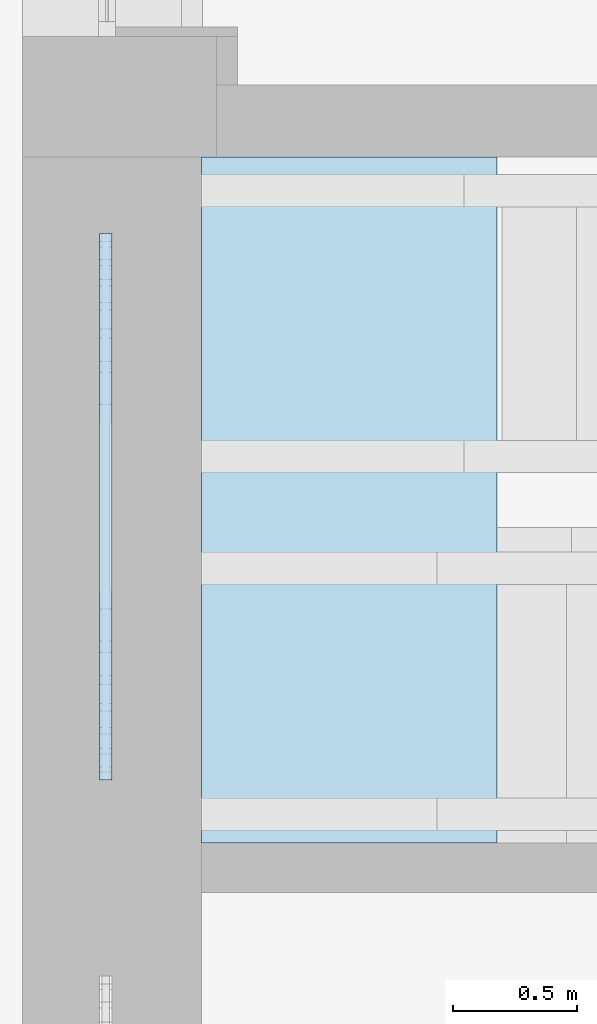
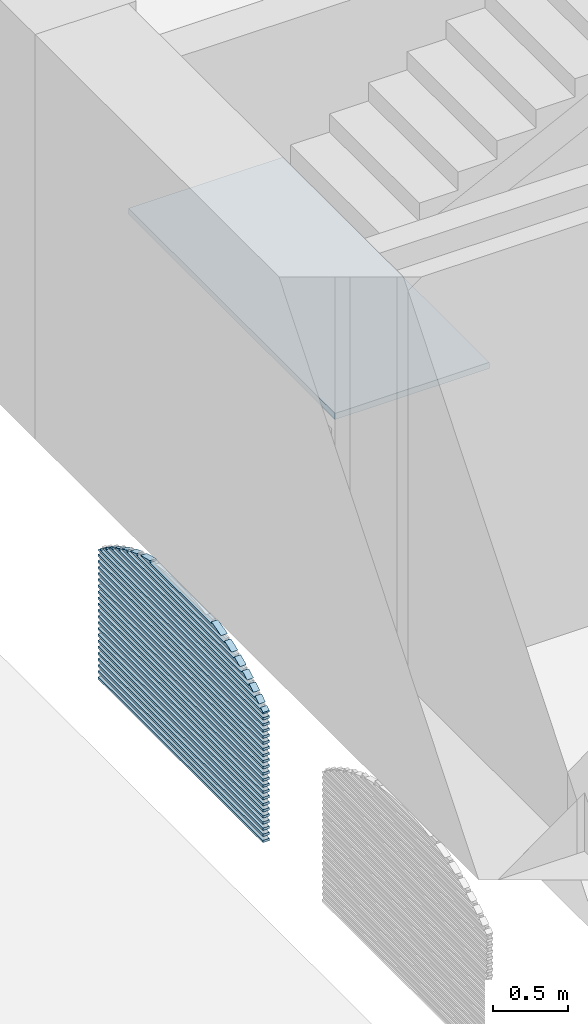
# One storey, part 60 of 88: 28 plates, 1 slab, 2 elements without a shape of their own.
"""IFC2X3 building model written with IfcOpenShell, lengths in millimetres."""

from ifc_helpers import new_model, entity, si_unit, converted_unit, derived_unit, direction, frame, frame_2d, origin, origin_2d_with_axis, place, context, subcontext, project, spatial, polyline, circle_curve, parameter, trimmed, segment, composite_curve, rectangle, outline, extrude, source, transform, mapped, material, type_object, type_shapes, element, aggregate, save


model = new_model("IFC2X3")

# Units and contexts
model_context = context("Model", 3, precision=0.01, world=origin(), true_north=direction((6.123031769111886e-17, 1.0)))
body_context = subcontext(model_context, "Body", "Model", "MODEL_VIEW")
ifc_project = project(units=[si_unit("LENGTHUNIT", "METRE", prefix="MILLI"), si_unit("AREAUNIT", "SQUARE_METRE"), si_unit("VOLUMEUNIT", "CUBIC_METRE"), converted_unit("PLANEANGLEUNIT", "DEGREE", entity("IfcPlaneAngleMeasure", 0.017453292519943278), si_unit("PLANEANGLEUNIT", "RADIAN"), dimensions=[0, 0, 0, 0, 0, 0, 0]), si_unit("MASSUNIT", "GRAM", prefix="KILO"), derived_unit("MASSDENSITYUNIT", [(si_unit("MASSUNIT", "GRAM", prefix="KILO"), 1), (si_unit("LENGTHUNIT", "METRE"), -3)]), derived_unit("IONCONCENTRATIONUNIT", [(si_unit("MASSUNIT", "GRAM", prefix="KILO"), 1), (si_unit("LENGTHUNIT", "METRE"), -3)]), derived_unit("MOMENTOFINERTIAUNIT", [(si_unit("LENGTHUNIT", "METRE"), 4)]), si_unit("TIMEUNIT", "SECOND"), si_unit("FREQUENCYUNIT", "HERTZ"), si_unit("THERMODYNAMICTEMPERATUREUNIT", "DEGREE_CELSIUS"), derived_unit("THERMALTRANSMITTANCEUNIT", [(si_unit("MASSUNIT", "GRAM", prefix="KILO"), 1), (si_unit("THERMODYNAMICTEMPERATUREUNIT", "KELVIN"), -1), (si_unit("TIMEUNIT", "SECOND"), -3)]), derived_unit("THERMALCONDUCTANCEUNIT", [(si_unit("MASSUNIT", "GRAM", prefix="KILO"), 1), (si_unit("THERMODYNAMICTEMPERATUREUNIT", "KELVIN"), -1), (si_unit("TIMEUNIT", "SECOND"), -3), (si_unit("LENGTHUNIT", "METRE"), 1)]), derived_unit("VOLUMETRICFLOWRATEUNIT", [(si_unit("LENGTHUNIT", "METRE", prefix="DECI"), 3), (si_unit("TIMEUNIT", "SECOND"), -1)]), derived_unit("MASSFLOWRATEUNIT", [(si_unit("MASSUNIT", "GRAM", prefix="KILO"), 1), (si_unit("TIMEUNIT", "SECOND"), -1)]), derived_unit("ROTATIONALFREQUENCYUNIT", [(si_unit("TIMEUNIT", "SECOND"), -1)]), si_unit("ELECTRICCURRENTUNIT", "AMPERE"), si_unit("ELECTRICVOLTAGEUNIT", "VOLT"), si_unit("POWERUNIT", "WATT"), si_unit("FORCEUNIT", "NEWTON", prefix="KILO"), si_unit("ILLUMINANCEUNIT", "LUX"), si_unit("LUMINOUSFLUXUNIT", "LUMEN"), si_unit("LUMINOUSINTENSITYUNIT", "CANDELA"), si_unit("ENERGYUNIT", "JOULE"), derived_unit("USERDEFINED", [(si_unit("MASSUNIT", "GRAM", prefix="KILO"), -1), (si_unit("LENGTHUNIT", "METRE"), -2), (si_unit("TIMEUNIT", "SECOND"), 3), (si_unit("LUMINOUSFLUXUNIT", "LUMEN"), 1)]), derived_unit("USERDEFINED", [(si_unit("MASSUNIT", "GRAM", prefix="KILO"), 1), (si_unit("TIMEUNIT", "SECOND"), -3), (si_unit("LENGTHUNIT", "METRE"), 3), (si_unit("ELECTRICCURRENTUNIT", "AMPERE"), -2)]), derived_unit("SOUNDPOWERUNIT", [(si_unit("MASSUNIT", "GRAM", prefix="KILO"), 1), (si_unit("TIMEUNIT", "SECOND"), -3), (si_unit("LENGTHUNIT", "METRE"), 2)]), derived_unit("SOUNDPRESSUREUNIT", [(si_unit("MASSUNIT", "GRAM", prefix="KILO"), 1), (si_unit("LENGTHUNIT", "METRE"), -1), (si_unit("TIMEUNIT", "SECOND"), -2)]), derived_unit("LINEARVELOCITYUNIT", [(si_unit("LENGTHUNIT", "METRE"), 1), (si_unit("TIMEUNIT", "SECOND"), -1)]), si_unit("PRESSUREUNIT", "PASCAL"), derived_unit("USERDEFINED", [(si_unit("MASSUNIT", "GRAM", prefix="KILO"), 1), (si_unit("LENGTHUNIT", "METRE"), -2), (si_unit("TIMEUNIT", "SECOND"), -2)]), derived_unit("LINEARFORCEUNIT", [(si_unit("MASSUNIT", "GRAM", prefix="KILO"), 1), (si_unit("TIMEUNIT", "SECOND"), -2)]), derived_unit("PLANARFORCEUNIT", [(si_unit("MASSUNIT", "GRAM", prefix="KILO"), 1), (si_unit("LENGTHUNIT", "METRE"), -1), (si_unit("TIMEUNIT", "SECOND"), -2)]), derived_unit("SPECIFICHEATCAPACITYUNIT", [(si_unit("THERMODYNAMICTEMPERATUREUNIT", "KELVIN"), -1), (si_unit("LENGTHUNIT", "METRE"), 2), (si_unit("TIMEUNIT", "SECOND"), -2)]), derived_unit("HEATFLUXDENSITYUNIT", [(si_unit("MASSUNIT", "GRAM", prefix="KILO"), 1), (si_unit("TIMEUNIT", "SECOND"), -3)]), derived_unit("HEATINGVALUEUNIT", [(si_unit("LENGTHUNIT", "METRE"), 2), (si_unit("TIMEUNIT", "SECOND"), -2)]), derived_unit("VAPORPERMEABILITYUNIT", [(si_unit("LENGTHUNIT", "METRE"), -1), (si_unit("TIMEUNIT", "SECOND"), 1)]), derived_unit("DYNAMICVISCOSITYUNIT", [(si_unit("MASSUNIT", "GRAM", prefix="KILO"), 1), (si_unit("TIMEUNIT", "SECOND"), -1), (si_unit("LENGTHUNIT", "METRE"), -1)]), derived_unit("THERMALEXPANSIONCOEFFICIENTUNIT", [(si_unit("THERMODYNAMICTEMPERATUREUNIT", "KELVIN"), -1)]), derived_unit("MODULUSOFELASTICITYUNIT", [(si_unit("MASSUNIT", "GRAM", prefix="KILO"), 1), (si_unit("LENGTHUNIT", "METRE"), -1), (si_unit("TIMEUNIT", "SECOND"), -2)]), derived_unit("ISOTHERMALMOISTURECAPACITYUNIT", [(si_unit("MASSUNIT", "GRAM", prefix="KILO"), -1), (si_unit("LENGTHUNIT", "METRE"), 3)]), derived_unit("MOISTUREDIFFUSIVITYUNIT", [(si_unit("TIMEUNIT", "SECOND"), -1), (si_unit("LENGTHUNIT", "METRE"), 2)]), derived_unit("MASSPERLENGTHUNIT", [(si_unit("MASSUNIT", "GRAM", prefix="KILO"), 1), (si_unit("LENGTHUNIT", "METRE"), -1)]), derived_unit("THERMALRESISTANCEUNIT", [(si_unit("MASSUNIT", "GRAM", prefix="KILO"), -1), (si_unit("TIMEUNIT", "SECOND"), 3), (si_unit("THERMODYNAMICTEMPERATUREUNIT", "KELVIN"), 1)]), derived_unit("ACCELERATIONUNIT", [(si_unit("LENGTHUNIT", "METRE"), 1), (si_unit("TIMEUNIT", "SECOND"), -2)]), derived_unit("ANGULARVELOCITYUNIT", [(si_unit("TIMEUNIT", "SECOND"), -1), (si_unit("PLANEANGLEUNIT", "RADIAN"), 1)]), derived_unit("LINEARSTIFFNESSUNIT", [(si_unit("MASSUNIT", "GRAM", prefix="KILO"), 1), (si_unit("TIMEUNIT", "SECOND"), -2)]), derived_unit("WARPINGCONSTANTUNIT", [(si_unit("LENGTHUNIT", "METRE"), 6)]), derived_unit("LINEARMOMENTUNIT", [(si_unit("MASSUNIT", "GRAM", prefix="KILO"), 1), (si_unit("LENGTHUNIT", "METRE"), 1), (si_unit("TIMEUNIT", "SECOND"), -2)]), derived_unit("TORQUEUNIT", [(si_unit("MASSUNIT", "GRAM", prefix="KILO"), 1), (si_unit("LENGTHUNIT", "METRE"), 2), (si_unit("TIMEUNIT", "SECOND"), -2)])], contexts=[model_context])

# Site, building, storey
site_placement = place(None, origin())
site = spatial("IfcSite", under=ifc_project, at=site_placement, Name="Default", CompositionType="ELEMENT")
building_placement = place(site_placement, origin())
building = spatial("IfcBuilding", under=site, at=building_placement, Name="Eesti Rahvusraamatukogu hoone renoveerimise projekteerimistööd", CompositionType="ELEMENT")
storey_placement = place(building_placement, origin())
storey = spatial("IfcBuildingStorey", under=building, at=storey_placement, Name="1. korrus", CompositionType="ELEMENT", Elevation=0.0)

# Stair, slab
stair_placement = place(storey_placement, origin())
stair = element("IfcStair", 1, at=stair_placement, inside=storey, Name="Assembled Stair:Stair", ObjectType="Assembled Stair:ol. olev trepp 50", ShapeType="STRAIGHT_RUN_STAIR")
ifc_material_1 = material(Name="ol. olev materjal")
slab_type = type_object("IfcSlabType", Name="Non-Monolithic Landing:Non-Monolithic Landing", PredefinedType="LANDING")
slab_placement = place(stair_placement, frame((-36060.0, 27545.0, 0.0)))
slab = element("IfcSlab", 2, at=slab_placement, type_object=slab_type, material=ifc_material_1, Name="Assembled Stair:Stair:4087566 Landing 1", ObjectType="Non-Monolithic Landing:Non-Monolithic Landing", PredefinedType="LANDING", context=body_context, shape_type="SweptSolid", body=[
    extrude(rectangle(XDim=2760.000000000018, YDim=1189.9999999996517, at=frame_2d((22.000000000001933, 118.99999999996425), x_axis=(1.0, 0.0))), frame((714.0, 1358.0, 3231.666666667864), z_axis=(0.0, 0.0, 1.0), x_axis=(0.0, 1.0, 0.0)), (0.0, 0.0, 1.0), 50.0),
])
aggregate(stair, [slab])

# Curtain wall, plates
curtain_wall_type = type_object("IfcCurtainWallType", Name="Curtain Wall:ol. olev MK vent. rest", PredefinedType="NOTDEFINED")
curtain_wall_placement = place(storey_placement, origin())
curtain_wall = element("IfcCurtainWall", 3, at=curtain_wall_placement, inside=storey, type_object=curtain_wall_type, Name="Curtain Wall:ol. olev MK vent. rest", ObjectType="Curtain Wall:ol. olev MK vent. rest")
ifc_material_2 = material(Name="LUMION_dark steel window frames")
plate_type_1 = type_object("IfcPlateType", Name="System Panel:Solid", PredefinedType="CURTAIN_PANEL", material=ifc_material_2)
shared_shape_1 = source(origin(), body_context, "Body", "SweptSolid", [
    extrude(rectangle(XDim=50.0, YDim=2200.0000000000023, at=origin_2d_with_axis()), frame((0.0, 0.0, 0.0), z_axis=(0.0, 0.0, 1.0), x_axis=(0.0, 1.0, 0.0)), (0.0, 0.0, 1.0), 19.999999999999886),
])
type_shapes(plate_type_1, [shared_shape_1])
plate_1_placement = place(curtain_wall_placement, frame((-36445.0, 28898.6343410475, -230.0), z_axis=(0.0, 0.0, 1.0), x_axis=(0.0, -1.0, 0.0)))
plate_1 = element("IfcPlate", 4, at=plate_1_placement, type_object=plate_type_1, material=ifc_material_2, Name="System Panel:Solid", ObjectType="System Panel:Solid", context=body_context, shape_type="MappedRepresentation", body=[
    mapped(shared_shape_1, transform((0.0, 0.0, 0.0), scale=1.0)),
])
plate_2_placement = place(curtain_wall_placement, frame((-36445.0, 28898.6343410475, -180.0), z_axis=(0.0, 0.0, 1.0), x_axis=(0.0, -1.0, 0.0)))
plate_2 = element("IfcPlate", 5, at=plate_2_placement, type_object=plate_type_1, material=ifc_material_2, Name="System Panel:Solid", ObjectType="System Panel:Solid", context=body_context, shape_type="MappedRepresentation", body=[
    mapped(shared_shape_1, transform((0.0, 0.0, 0.0), scale=1.0)),
])
plate_3_placement = place(curtain_wall_placement, frame((-36445.0, 28898.6343410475, -130.0), z_axis=(0.0, 0.0, 1.0), x_axis=(0.0, -1.0, 0.0)))
plate_3 = element("IfcPlate", 6, at=plate_3_placement, type_object=plate_type_1, material=ifc_material_2, Name="System Panel:Solid", ObjectType="System Panel:Solid", context=body_context, shape_type="MappedRepresentation", body=[
    mapped(shared_shape_1, transform((0.0, 0.0, 0.0), scale=1.0)),
])
plate_4_placement = place(curtain_wall_placement, frame((-36445.0, 28898.6343410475, -80.0), z_axis=(0.0, 0.0, 1.0), x_axis=(0.0, -1.0, 0.0)))
plate_4 = element("IfcPlate", 7, at=plate_4_placement, type_object=plate_type_1, material=ifc_material_2, Name="System Panel:Solid", ObjectType="System Panel:Solid", context=body_context, shape_type="MappedRepresentation", body=[
    mapped(shared_shape_1, transform((0.0, 0.0, 0.0), scale=1.0)),
])
plate_5_placement = place(curtain_wall_placement, frame((-36445.0, 28898.6343410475, -30.0), z_axis=(0.0, 0.0, 1.0), x_axis=(0.0, -1.0, 0.0)))
plate_5 = element("IfcPlate", 8, at=plate_5_placement, type_object=plate_type_1, material=ifc_material_2, Name="System Panel:Solid", ObjectType="System Panel:Solid", context=body_context, shape_type="MappedRepresentation", body=[
    mapped(shared_shape_1, transform((0.0, 0.0, 0.0), scale=1.0)),
])
plate_6_placement = place(curtain_wall_placement, frame((-36445.0, 28898.6343410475, 20.0), z_axis=(0.0, 0.0, 1.0), x_axis=(0.0, -1.0, 0.0)))
plate_6 = element("IfcPlate", 9, at=plate_6_placement, type_object=plate_type_1, material=ifc_material_2, Name="System Panel:Solid", ObjectType="System Panel:Solid", context=body_context, shape_type="MappedRepresentation", body=[
    mapped(shared_shape_1, transform((0.0, 0.0, 0.0), scale=1.0)),
])
plate_7_placement = place(curtain_wall_placement, frame((-36445.0, 28898.6343410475, 70.0), z_axis=(0.0, 0.0, 1.0), x_axis=(0.0, -1.0, 0.0)))
plate_7 = element("IfcPlate", 10, at=plate_7_placement, type_object=plate_type_1, material=ifc_material_2, Name="System Panel:Solid", ObjectType="System Panel:Solid", context=body_context, shape_type="MappedRepresentation", body=[
    mapped(shared_shape_1, transform((0.0, 0.0, 0.0), scale=1.0)),
])
plate_8_placement = place(curtain_wall_placement, frame((-36445.0, 28898.6343410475, 120.0), z_axis=(0.0, 0.0, 1.0), x_axis=(0.0, -1.0, 0.0)))
plate_8 = element("IfcPlate", 11, at=plate_8_placement, type_object=plate_type_1, material=ifc_material_2, Name="System Panel:Solid", ObjectType="System Panel:Solid", context=body_context, shape_type="MappedRepresentation", body=[
    mapped(shared_shape_1, transform((0.0, 0.0, 0.0), scale=1.0)),
])
plate_9_placement = place(curtain_wall_placement, frame((-36445.0, 28898.6343410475, 170.0), z_axis=(0.0, 0.0, 1.0), x_axis=(0.0, -1.0, 0.0)))
plate_9 = element("IfcPlate", 12, at=plate_9_placement, type_object=plate_type_1, material=ifc_material_2, Name="System Panel:Solid", ObjectType="System Panel:Solid", context=body_context, shape_type="MappedRepresentation", body=[
    mapped(shared_shape_1, transform((0.0, 0.0, 0.0), scale=1.0)),
])
plate_10_placement = place(curtain_wall_placement, frame((-36445.0, 28898.6343410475, 220.0), z_axis=(0.0, 0.0, 1.0), x_axis=(0.0, -1.0, 0.0)))
plate_10 = element("IfcPlate", 13, at=plate_10_placement, type_object=plate_type_1, material=ifc_material_2, Name="System Panel:Solid", ObjectType="System Panel:Solid", context=body_context, shape_type="MappedRepresentation", body=[
    mapped(shared_shape_1, transform((0.0, 0.0, 0.0), scale=1.0)),
])
plate_11_placement = place(curtain_wall_placement, frame((-36445.0, 28898.6343410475, 270.0), z_axis=(0.0, 0.0, 1.0), x_axis=(0.0, -1.0, 0.0)))
plate_11 = element("IfcPlate", 14, at=plate_11_placement, type_object=plate_type_1, material=ifc_material_2, Name="System Panel:Solid", ObjectType="System Panel:Solid", context=body_context, shape_type="MappedRepresentation", body=[
    mapped(shared_shape_1, transform((0.0, 0.0, 0.0), scale=1.0)),
])
plate_12_placement = place(curtain_wall_placement, frame((-36445.0, 28898.6343410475, 320.0), z_axis=(0.0, 0.0, 1.0), x_axis=(0.0, -1.0, 0.0)))
plate_12 = element("IfcPlate", 15, at=plate_12_placement, type_object=plate_type_1, material=ifc_material_2, Name="System Panel:Solid", ObjectType="System Panel:Solid", context=body_context, shape_type="MappedRepresentation", body=[
    mapped(shared_shape_1, transform((0.0, 0.0, 0.0), scale=1.0)),
])
plate_13_placement = place(curtain_wall_placement, frame((-36445.0, 28898.6343410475, 370.0), z_axis=(0.0, 0.0, 1.0), x_axis=(0.0, -1.0, 0.0)))
plate_13 = element("IfcPlate", 16, at=plate_13_placement, type_object=plate_type_1, material=ifc_material_2, Name="System Panel:Solid", ObjectType="System Panel:Solid", context=body_context, shape_type="MappedRepresentation", body=[
    mapped(shared_shape_1, transform((0.0, 0.0, 0.0), scale=1.0)),
])
plate_14_placement = place(curtain_wall_placement, frame((-36445.0, 28898.6343410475, 420.0), z_axis=(0.0, 0.0, 1.0), x_axis=(0.0, -1.0, 0.0)))
plate_14 = element("IfcPlate", 17, at=plate_14_placement, type_object=plate_type_1, material=ifc_material_2, Name="System Panel:Solid", ObjectType="System Panel:Solid", context=body_context, shape_type="MappedRepresentation", body=[
    mapped(shared_shape_1, transform((0.0, 0.0, 0.0), scale=1.0)),
])
plate_15_placement = place(curtain_wall_placement, frame((-36445.0, 28898.6343410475, 470.0), z_axis=(0.0, 0.0, 1.0), x_axis=(0.0, -1.0, 0.0)))
plate_15 = element("IfcPlate", 18, at=plate_15_placement, type_object=plate_type_1, material=ifc_material_2, Name="System Panel:Solid", ObjectType="System Panel:Solid", context=body_context, shape_type="MappedRepresentation", body=[
    mapped(shared_shape_1, transform((0.0, 0.0, 0.0), scale=1.0)),
])
plate_16_placement = place(curtain_wall_placement, frame((-36445.0, 28898.6343410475, 520.0), z_axis=(0.0, 0.0, 1.0), x_axis=(0.0, -1.0, 0.0)))
plate_16 = element("IfcPlate", 19, at=plate_16_placement, type_object=plate_type_1, material=ifc_material_2, Name="System Panel:Solid", ObjectType="System Panel:Solid", context=body_context, shape_type="MappedRepresentation", body=[
    mapped(shared_shape_1, transform((0.0, 0.0, 0.0), scale=1.0)),
])
plate_17_placement = place(curtain_wall_placement, frame((-36445.0, 28898.6343410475, 570.0), z_axis=(0.0, 0.0, 1.0), x_axis=(0.0, -1.0, 0.0)))
plate_17 = element("IfcPlate", 20, at=plate_17_placement, type_object=plate_type_1, material=ifc_material_2, Name="System Panel:Solid", ObjectType="System Panel:Solid", context=body_context, shape_type="MappedRepresentation", body=[
    mapped(shared_shape_1, transform((0.0, 0.0, 0.0), scale=1.0)),
])
plate_18_placement = place(curtain_wall_placement, frame((-36445.0, 28898.63434104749, 620.0), z_axis=(0.0, 0.0, 1.0), x_axis=(0.0, -1.0, 0.0)))
plate_18 = element("IfcPlate", 21, at=plate_18_placement, type_object=plate_type_1, material=ifc_material_2, Name="System Panel:Solid", ObjectType="System Panel:Solid", context=body_context, shape_type="MappedRepresentation", body=[
    mapped(shared_shape_1, transform((0.0, 0.0, 0.0), scale=1.0)),
])
plate_19_placement = place(curtain_wall_placement, frame((-36445.0, 28898.63434104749, 670.0), z_axis=(0.0, 0.0, 1.0), x_axis=(0.0, -1.0, 0.0)))
plate_19 = element("IfcPlate", 22, at=plate_19_placement, type_object=plate_type_1, material=ifc_material_2, Name="System Panel:Solid", ObjectType="System Panel:Solid", context=body_context, shape_type="MappedRepresentation", body=[
    mapped(shared_shape_1, transform((0.0, 0.0, 0.0), scale=1.0)),
])
plate_20_placement = place(curtain_wall_placement, frame((-36445.0, 28898.63434104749, 720.0), z_axis=(0.0, 0.0, 1.0), x_axis=(0.0, -1.0, 0.0)))
plate_20 = element("IfcPlate", 23, at=plate_20_placement, type_object=plate_type_1, material=ifc_material_2, Name="System Panel:Solid", ObjectType="System Panel:Solid", context=body_context, shape_type="MappedRepresentation", body=[
    mapped(shared_shape_1, transform((0.0, 0.0, 0.0), scale=1.0)),
])
plate_21_placement = place(curtain_wall_placement, frame((-36445.0, 28898.63434104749, 770.0), z_axis=(0.0, 0.0, 1.0), x_axis=(0.0, -1.0, 0.0)))
plate_21 = element("IfcPlate", 24, at=plate_21_placement, type_object=plate_type_1, material=ifc_material_2, Name="System Panel:Solid", ObjectType="System Panel:Solid", context=body_context, shape_type="MappedRepresentation", body=[
    mapped(shared_shape_1, transform((0.0, 0.0, 0.0), scale=1.0)),
])
plate_type_2 = type_object("IfcPlateType", Name="System Panel:Solid", PredefinedType="CURTAIN_PANEL", material=ifc_material_2)
shared_shape_2 = source(origin(), body_context, "Body", "SweptSolid", [
    extrude(outline(composite_curve([segment(polyline([(-16.44483337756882, -1100.5114047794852), (-6.444833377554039, -1100.5114047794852)]), True, "CONTINUOUS"), segment(trimmed(circle_curve(frame_2d((-1449.322804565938, 0.5114047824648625), x_axis=(0.8087576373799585, -0.5881420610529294)), 1814.9788061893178), [parameter(358.6789588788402)], [parameter(0.0)], True, "PARAMETER"), True, "CONTINUOUS"), segment(polyline([(18.555166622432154, -1066.9539710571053), (3.555166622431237, -1066.9539710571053)]), True, "CONTINUOUS"), segment(polyline([(3.555166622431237, -1066.9539710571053), (3.555166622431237, 1067.9767806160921)]), True, "CONTINUOUS"), segment(polyline([(3.555166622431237, 1067.9767806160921), (18.55516662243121, 1067.9767806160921)]), True, "CONTINUOUS"), segment(trimmed(circle_curve(frame_2d((-1449.3228045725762, 0.5114047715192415), x_axis=(0.7958421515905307, 0.6055041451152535)), 1814.9788061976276), [parameter(358.7601452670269)], [parameter(0.0)], True, "PARAMETER"), True, "CONTINUOUS"), segment(polyline([(-4.886166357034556, 1099.4885952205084), (-16.44483337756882, 1099.4885952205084)]), True, "CONTINUOUS"), segment(polyline([(-16.44483337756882, 1099.4885952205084), (-16.44483337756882, -1100.5114047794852)]), True, "CONTINUOUS")], self_intersect=False)), frame((0.5114047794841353, -25.0, 16.44483337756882), z_axis=(0.0, 1.0, 0.0), x_axis=(0.0, 0.0, 1.0)), (0.0, 0.0, 1.0), 50.0),
])
type_shapes(plate_type_2, [shared_shape_2])
plate_22_placement = place(curtain_wall_placement, frame((-36445.0, 28898.634341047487, 820.0), z_axis=(0.0, 0.0, 1.0), x_axis=(0.0, -1.0, 0.0)))
plate_22 = element("IfcPlate", 25, at=plate_22_placement, type_object=plate_type_2, material=ifc_material_2, Name="System Panel:Solid", ObjectType="System Panel:Solid", context=body_context, shape_type="MappedRepresentation", body=[
    mapped(shared_shape_2, transform((0.0, 0.0, 0.0), scale=1.0)),
])
plate_type_3 = type_object("IfcPlateType", Name="System Panel:Solid", PredefinedType="CURTAIN_PANEL", material=ifc_material_2)
shared_shape_3 = source(origin(), body_context, "Body", "SweptSolid", [
    extrude(outline(composite_curve([segment(trimmed(circle_curve(frame_2d((-1255.4722740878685, -823.058169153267), x_axis=(1.0, 0.0)), 1814.9788061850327), [parameter(358.0357142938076)], [parameter(0.0)], True, "PARAMETER"), True, "CONTINUOUS"), segment(polyline([(559.5065320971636, -823.0581691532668), (546.9619395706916, -831.282109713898)]), True, "CONTINUOUS"), segment(polyline([(546.9619395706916, -831.282109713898), (-544.174252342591, 833.1096520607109)]), True, "CONTINUOUS"), segment(polyline([(-544.174252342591, 833.1096520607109), (-531.6296598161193, 841.3335926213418)]), True, "CONTINUOUS"), segment(trimmed(circle_curve(frame_2d((-1255.4722740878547, -823.0581691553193), x_axis=(0.35391264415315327, 0.9352784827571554)), 1814.9788061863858), [parameter(357.2226348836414)], [parameter(359.1869205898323)], True, "PARAMETER"), True, "CONTINUOUS"), segment(polyline([(-589.1045861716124, 865.1663927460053), (558.4400266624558, -885.2693585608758)]), True, "CONTINUOUS")], self_intersect=False)), frame((0.0, -25.0, 18.333333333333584), z_axis=(0.0, 1.0, 0.0), x_axis=(-0.5482627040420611, 0.0, 0.8363061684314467)), (0.0, 0.0, 1.0), 50.0),
])
type_shapes(plate_type_3, [shared_shape_3])
plate_23_placement = place(curtain_wall_placement, frame((-36445.0, 28897.61153148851, 870.0), z_axis=(0.0, 0.0, 1.0), x_axis=(0.0, -1.0, 0.0)))
plate_23 = element("IfcPlate", 26, at=plate_23_placement, type_object=plate_type_3, material=ifc_material_2, Name="System Panel:Solid", ObjectType="System Panel:Solid", context=body_context, shape_type="MappedRepresentation", body=[
    mapped(shared_shape_3, transform((0.0, 0.0, 0.0), scale=1.0)),
])
plate_type_4 = type_object("IfcPlateType", Name="System Panel:Solid", PredefinedType="CURTAIN_PANEL", material=ifc_material_2)
shared_shape_4 = source(origin(), body_context, "Body", "SweptSolid", [
    extrude(outline(composite_curve([segment(trimmed(circle_curve(frame_2d((-1340.021175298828, -781.4088309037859), x_axis=(1.0, 0.0)), 1814.978806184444), [parameter(357.87378894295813)], [parameter(0.0)], True, "PARAMETER"), True, "CONTINUOUS"), segment(polyline([(474.95763088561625, -781.4088309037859), (461.99981039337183, -788.9649468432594)]), True, "CONTINUOUS"), segment(polyline([(461.99981039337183, -788.9649468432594), (-459.1202947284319, 790.6440837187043)]), True, "CONTINUOUS"), segment(polyline([(-459.1202947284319, 790.6440837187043), (-446.16247423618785, 798.2001996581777)]), True, "CONTINUOUS"), segment(trimmed(circle_curve(frame_2d((-1340.021175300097, -781.4088309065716), x_axis=(0.4462645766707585, 0.8949010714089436)), 1814.9788061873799), [parameter(356.99990824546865)], [parameter(359.12611930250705)], True, "PARAMETER"), True, "CONTINUOUS"), segment(polyline([(-505.38273719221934, 830.2756123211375), (473.70806487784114, -848.746117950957)]), True, "CONTINUOUS")], self_intersect=False)), frame((0.0, -25.0, 18.33333333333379), z_axis=(0.0, 1.0, 0.0), x_axis=(-0.5037410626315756, 0.0, 0.8638546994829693)), (0.0, 0.0, 1.0), 49.999999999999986),
])
type_shapes(plate_type_4, [shared_shape_4])
plate_24_placement = place(curtain_wall_placement, frame((-36445.0, 28897.61153148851, 920.0), z_axis=(0.0, 0.0, 1.0), x_axis=(0.0, -1.0, 0.0)))
plate_24 = element("IfcPlate", 27, at=plate_24_placement, type_object=plate_type_4, material=ifc_material_2, Name="System Panel:Solid", ObjectType="System Panel:Solid", context=body_context, shape_type="MappedRepresentation", body=[
    mapped(shared_shape_4, transform((0.0, 0.0, 0.0), scale=1.0)),
])
plate_type_5 = type_object("IfcPlateType", Name="System Panel:Solid", PredefinedType="CURTAIN_PANEL", material=ifc_material_2)
shared_shape_5 = source(origin(), body_context, "Body", "SweptSolid", [
    extrude(outline(composite_curve([segment(trimmed(circle_curve(frame_2d((-1427.3249296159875, -725.6867003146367), x_axis=(1.0, 0.0)), 1814.9788061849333), [parameter(357.65574356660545)], [parameter(0.0)], True, "PARAMETER"), True, "CONTINUOUS"), segment(polyline([(387.65387656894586, -725.6867003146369), (374.28282811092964, -732.4848664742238)]), True, "CONTINUOUS"), segment(polyline([(374.28282811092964, -732.4848664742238), (-371.31148400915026, 733.9955700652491)]), True, "CONTINUOUS"), segment(polyline([(-371.31148400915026, 733.9955700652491), (-357.9404355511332, 740.7937362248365)]), True, "CONTINUOUS"), segment(trimmed(circle_curve(frame_2d((-1427.3249296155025, -725.6867003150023), x_axis=(0.541741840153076, 0.8405449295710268)), 1814.9788061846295), [parameter(356.70207384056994)], [parameter(359.04633027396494)], True, "PARAMETER"), True, "CONTINUOUS"), segment(polyline([(-418.8197030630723, 783.3080892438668), (386.13491794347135, -799.9258287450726)]), True, "CONTINUOUS")], self_intersect=False)), frame((0.0, -25.0, 18.33333333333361), z_axis=(0.0, 1.0, 0.0), x_axis=(-0.45321107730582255, 0.0, 0.8914032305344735)), (0.0, 0.0, 1.0), 50.0),
])
type_shapes(plate_type_5, [shared_shape_5])
plate_25_placement = place(curtain_wall_placement, frame((-36445.0, 28897.61153148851, 970.0), z_axis=(0.0, 0.0, 1.0), x_axis=(0.0, -1.0, 0.0)))
plate_25 = element("IfcPlate", 28, at=plate_25_placement, type_object=plate_type_5, material=ifc_material_2, Name="System Panel:Solid", ObjectType="System Panel:Solid", context=body_context, shape_type="MappedRepresentation", body=[
    mapped(shared_shape_5, transform((0.0, 0.0, 0.0), scale=1.0)),
])
plate_type_6 = type_object("IfcPlateType", Name="System Panel:Solid", PredefinedType="CURTAIN_PANEL", material=ifc_material_2)
shared_shape_6 = source(origin(), body_context, "Body", "SweptSolid", [
    extrude(outline(composite_curve([segment(trimmed(circle_curve(frame_2d((-1517.3835370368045, -651.1881246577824), x_axis=(1.0, 0.0)), 1814.9788061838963), [parameter(357.34111943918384)], [parameter(0.0)], True, "PARAMETER"), True, "CONTINUOUS"), segment(polyline([(297.5952691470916, -651.1881246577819), (283.81099272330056, -657.1036739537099)]), True, "CONTINUOUS"), segment(polyline([(283.81099272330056, -657.1036739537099), (-280.74782018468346, 658.4182404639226)]), True, "CONTINUOUS"), segment(polyline([(-280.74782018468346, 658.4182404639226), (-266.96354376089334, 664.3337897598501)]), True, "CONTINUOUS"), segment(trimmed(circle_curve(frame_2d((-1517.3835370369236, -651.1881246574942), x_axis=(0.6404237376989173, 0.7680217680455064)), 1814.978806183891), [parameter(356.2767946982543)], [parameter(358.9356752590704)], True, "PARAMETER"), True, "CONTINUOUS"), segment(polyline([(-329.33620551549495, 720.9239716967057), (295.64130759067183, -735.3842033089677)]), True, "CONTINUOUS")], self_intersect=False)), frame((0.0, -25.0, 18.3333333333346), z_axis=(0.0, 1.0, 0.0), x_axis=(-0.39436995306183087, 0.0, 0.9189517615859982)), (0.0, 0.0, 1.0), 50.0),
])
type_shapes(plate_type_6, [shared_shape_6])
plate_26_placement = place(curtain_wall_placement, frame((-36445.0, 28897.61153148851, 1020.0), z_axis=(0.0, 0.0, 1.0), x_axis=(0.0, -1.0, 0.0)))
plate_26 = element("IfcPlate", 29, at=plate_26_placement, type_object=plate_type_6, material=ifc_material_2, Name="System Panel:Solid", ObjectType="System Panel:Solid", context=body_context, shape_type="MappedRepresentation", body=[
    mapped(shared_shape_6, transform((0.0, 0.0, 0.0), scale=1.0)),
])
plate_type_7 = type_object("IfcPlateType", Name="System Panel:Solid", PredefinedType="CURTAIN_PANEL", material=ifc_material_2)
shared_shape_7 = source(origin(), body_context, "Body", "SweptSolid", [
    extrude(outline(composite_curve([segment(trimmed(circle_curve(frame_2d((-1610.1969975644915, -548.9859120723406), x_axis=(1.0, 0.0)), 1814.9788061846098), [parameter(356.83143327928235)], [parameter(0.0)], True, "PARAMETER"), True, "CONTINUOUS"), segment(polyline([(204.78180862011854, -548.9859120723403), (190.58430423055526, -553.8264563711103)]), True, "CONTINUOUS"), segment(polyline([(190.58430423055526, -553.8264563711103), (-187.4293032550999, 554.9021328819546)]), True, "CONTINUOUS"), segment(polyline([(-187.4293032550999, 554.9021328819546), (-173.2317988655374, 559.7426771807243)]), True, "CONTINUOUS"), segment(trimmed(circle_curve(frame_2d((-1610.1969975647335, -548.985912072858), x_axis=(0.7425237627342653, 0.6698197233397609)), 1814.978806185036), [parameter(355.5997816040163)], [parameter(358.76834832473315)], True, "PARAMETER"), True, "CONTINUOUS"), segment(polyline([(-236.71214944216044, 637.4741331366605), (202.0071387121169, -649.3065747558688)]), True, "CONTINUOUS")], self_intersect=False)), frame((0.0, -25.0, 18.33333333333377), z_axis=(0.0, 1.0, 0.0), x_axis=(-0.3227029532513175, 0.0, 0.9465002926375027)), (0.0, 0.0, 1.0), 49.999999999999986),
])
type_shapes(plate_type_7, [shared_shape_7])
plate_27_placement = place(curtain_wall_placement, frame((-36445.0, 28897.61153148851, 1070.0), z_axis=(0.0, 0.0, 1.0), x_axis=(0.0, -1.0, 0.0)))
plate_27 = element("IfcPlate", 30, at=plate_27_placement, type_object=plate_type_7, material=ifc_material_2, Name="System Panel:Solid", ObjectType="System Panel:Solid", context=body_context, shape_type="MappedRepresentation", body=[
    mapped(shared_shape_7, transform((0.0, 0.0, 0.0), scale=1.0)),
])
plate_type_8 = type_object("IfcPlateType", Name="System Panel:Solid", PredefinedType="CURTAIN_PANEL", material=ifc_material_2)
shared_shape_8 = source(origin(), body_context, "Body", "SweptSolid", [
    extrude(outline(composite_curve([segment(trimmed(circle_curve(frame_2d((-1705.7653111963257, -396.36565970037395), x_axis=(1.0, 0.0)), 1814.978806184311), [parameter(355.7823505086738)], [parameter(0.0)], True, "PARAMETER"), True, "CONTINUOUS"), segment(polyline([(109.21349498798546, -396.36565970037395), (94.60276263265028, -399.7607296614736)]), True, "CONTINUOUS"), segment(polyline([(94.60276263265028, -399.7607296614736), (-91.35593322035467, 400.51518965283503)]), True, "CONTINUOUS"), segment(polyline([(-91.35593322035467, 400.51518965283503), (-76.7452008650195, 403.91025961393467)]), True, "CONTINUOUS"), segment(trimmed(circle_curve(frame_2d((-1705.765311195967, -396.3656597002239), x_axis=(0.8488975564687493, 0.5285574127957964)), 1814.9788061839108), [parameter(354.2551026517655)], [parameter(358.4727521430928)], True, "PARAMETER"), True, "CONTINUOUS"), segment(polyline([(-140.01341903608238, 521.5499568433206), (104.2982955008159, -529.8490167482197)]), True, "CONTINUOUS")], self_intersect=False)), frame((0.0, -25.0, 18.333333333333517), z_axis=(0.0, 1.0, 0.0), x_axis=(-0.22633799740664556, 0.0, 0.9740488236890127)), (0.0, 0.0, 1.0), 50.0),
])
type_shapes(plate_type_8, [shared_shape_8])
plate_28_placement = place(curtain_wall_placement, frame((-36445.0, 28897.61153148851, 1120.0), z_axis=(0.0, 0.0, 1.0), x_axis=(0.0, -1.0, 0.0)))
plate_28 = element("IfcPlate", 31, at=plate_28_placement, type_object=plate_type_8, material=ifc_material_2, Name="System Panel:Solid", ObjectType="System Panel:Solid", context=body_context, shape_type="MappedRepresentation", body=[
    mapped(shared_shape_8, transform((0.0, 0.0, 0.0), scale=1.0)),
])
aggregate(curtain_wall, [plate_1, plate_2, plate_3, plate_4, plate_5, plate_6, plate_7, plate_8, plate_9, plate_10, plate_11, plate_12, plate_13, plate_14, plate_15, plate_16, plate_17, plate_18, plate_19, plate_20, plate_21, plate_22, plate_23, plate_24, plate_25, plate_26, plate_27, plate_28])

save(model, "model.ifc")
